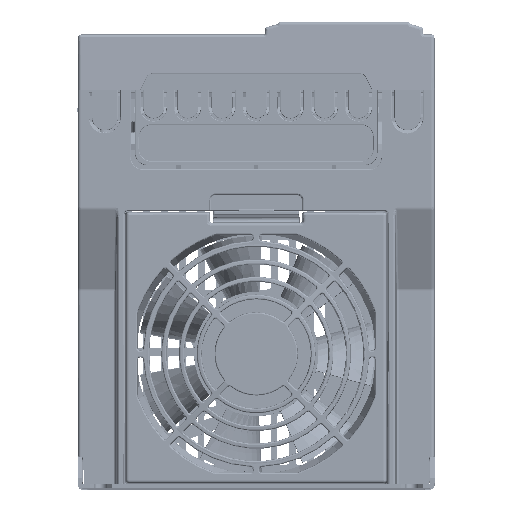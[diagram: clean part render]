
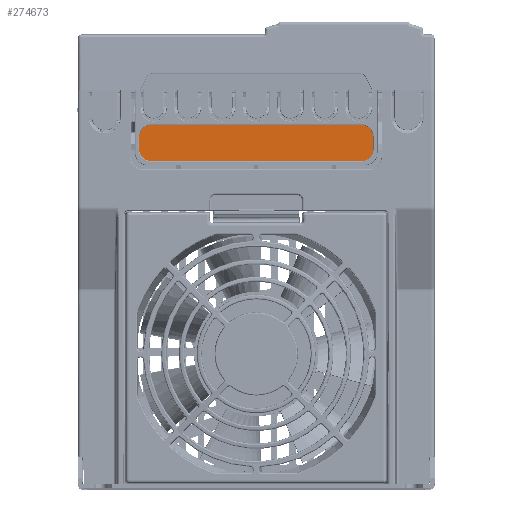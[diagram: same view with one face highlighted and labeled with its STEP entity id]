
A CAD part, top view. The second image highlights one B-rep face of the part: STEP entity #274673.
In plain terms, the highlighted planar face has unit normal (0, 0, 1).
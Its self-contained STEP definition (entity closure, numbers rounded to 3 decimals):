
#19532=FACE_OUTER_BOUND('',#34830,.T.);
#34830=EDGE_LOOP('',(#192560,#192561,#192562,#192563,#192564,#192565,#192566,
#192567));
#53276=LINE('',#450167,#80244);
#53279=LINE('',#450175,#80247);
#53282=LINE('',#450183,#80250);
#53285=LINE('',#450190,#80253);
#80244=VECTOR('',#325345,5.5);
#80247=VECTOR('',#325354,101.);
#80250=VECTOR('',#325363,5.5);
#80253=VECTOR('',#325372,101.);
#102542=CIRCLE('',#292435,5.991);
#102543=CIRCLE('',#292438,5.991);
#102544=CIRCLE('',#292441,5.991);
#102545=CIRCLE('',#292444,5.991);
#112381=VERTEX_POINT('',#450160);
#112382=VERTEX_POINT('',#450162);
#112383=VERTEX_POINT('',#450166);
#112384=VERTEX_POINT('',#450170);
#112385=VERTEX_POINT('',#450174);
#112386=VERTEX_POINT('',#450178);
#112387=VERTEX_POINT('',#450182);
#112388=VERTEX_POINT('',#450186);
#141878=EDGE_CURVE('',#112382,#112381,#102542,.T.);
#141880=EDGE_CURVE('',#112383,#112382,#53276,.T.);
#141882=EDGE_CURVE('',#112384,#112383,#102543,.T.);
#141884=EDGE_CURVE('',#112385,#112384,#53279,.T.);
#141886=EDGE_CURVE('',#112386,#112385,#102544,.T.);
#141888=EDGE_CURVE('',#112387,#112386,#53282,.T.);
#141890=EDGE_CURVE('',#112388,#112387,#102545,.T.);
#141892=EDGE_CURVE('',#112381,#112388,#53285,.T.);
#192560=ORIENTED_EDGE('',*,*,#141880,.T.);
#192561=ORIENTED_EDGE('',*,*,#141878,.T.);
#192562=ORIENTED_EDGE('',*,*,#141892,.T.);
#192563=ORIENTED_EDGE('',*,*,#141890,.T.);
#192564=ORIENTED_EDGE('',*,*,#141888,.T.);
#192565=ORIENTED_EDGE('',*,*,#141886,.T.);
#192566=ORIENTED_EDGE('',*,*,#141884,.T.);
#192567=ORIENTED_EDGE('',*,*,#141882,.T.);
#250831=PLANE('',#292446);
#274673=ADVANCED_FACE('',(#19532),#250831,.T.);
#292435=AXIS2_PLACEMENT_3D('',#450163,#325340,#325341);
#292438=AXIS2_PLACEMENT_3D('',#450171,#325349,#325350);
#292441=AXIS2_PLACEMENT_3D('',#450179,#325358,#325359);
#292444=AXIS2_PLACEMENT_3D('',#450187,#325367,#325368);
#292446=AXIS2_PLACEMENT_3D('',#450191,#325373,#325374);
#325340=DIRECTION('center_axis',(0.,0.,1.));
#325341=DIRECTION('ref_axis',(1.,0.,0.));
#325345=DIRECTION('',(0.,1.,0.));
#325349=DIRECTION('center_axis',(0.,0.,1.));
#325350=DIRECTION('ref_axis',(0.,-1.,0.));
#325354=DIRECTION('',(1.,0.,0.));
#325358=DIRECTION('center_axis',(0.,0.,1.));
#325359=DIRECTION('ref_axis',(-1.,0.,0.));
#325363=DIRECTION('',(0.,-1.,0.));
#325367=DIRECTION('center_axis',(0.,0.,1.));
#325368=DIRECTION('ref_axis',(0.,1.,0.));
#325372=DIRECTION('',(-1.,0.,0.));
#325373=DIRECTION('center_axis',(0.,0.,1.));
#325374=DIRECTION('ref_axis',(1.,0.,0.));
#450160=CARTESIAN_POINT('',(50.5,175.391,214.));
#450162=CARTESIAN_POINT('',(56.491,169.4,214.));
#450163=CARTESIAN_POINT('Origin',(50.5,169.4,214.));
#450166=CARTESIAN_POINT('',(56.491,163.9,214.));
#450167=CARTESIAN_POINT('',(56.491,163.9,214.));
#450170=CARTESIAN_POINT('',(50.5,157.909,214.));
#450171=CARTESIAN_POINT('Origin',(50.5,163.9,214.));
#450174=CARTESIAN_POINT('',(-50.5,157.909,214.));
#450175=CARTESIAN_POINT('',(-50.5,157.909,214.));
#450178=CARTESIAN_POINT('',(-56.491,163.9,214.));
#450179=CARTESIAN_POINT('Origin',(-50.5,163.9,214.));
#450182=CARTESIAN_POINT('',(-56.491,169.4,214.));
#450183=CARTESIAN_POINT('',(-56.491,169.4,214.));
#450186=CARTESIAN_POINT('',(-50.5,175.391,214.));
#450187=CARTESIAN_POINT('Origin',(-50.5,169.4,214.));
#450190=CARTESIAN_POINT('',(50.5,175.391,214.));
#450191=CARTESIAN_POINT('Origin',(0.,0.,214.));
